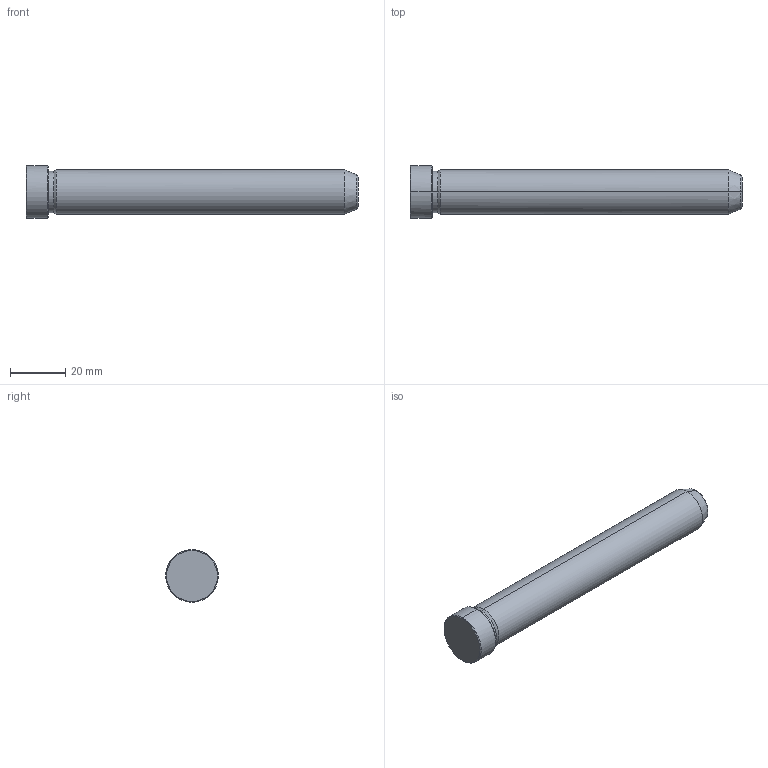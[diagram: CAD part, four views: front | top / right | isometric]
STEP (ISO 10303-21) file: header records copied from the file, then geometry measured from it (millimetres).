
FILE_DESCRIPTION(('CATIA V5 STEP Exchange'),'2;1');
FILE_NAME('C:\Users\Utente\Desktop\IO LAVORO\3D X SITO CF\X SITO\PLASTICA\549\549-16X120.stp','2021-12-11T09:33:06+00:00',('none'),('none'),'CATIA Version 5 Release 20 GA (IN-10)','CATIA V5 STEP AP203','none');
FILE_SCHEMA(('CONFIG_CONTROL_DESIGN'));
Length unit declared in the file: millimetre
Products named in the file (1): 549-16X120
Bounding box: 120 x 19 x 19 mm (x, y, z)
Volume: 24487 mm3; surface area: 6566.8 mm2
Topology: 1 solids, 1 shells, 19 faces, 56 edges, 40 vertices
Faces by surface type: cone 8, cylinder 6, plane 3, torus 2
Entity records: 736 total; most frequent: CARTESIAN_POINT 192, ORIENTED_EDGE 112, DIRECTION 86, EDGE_CURVE 56, AXIS2_PLACEMENT_3D 54, VERTEX_POINT 40, CIRCLE 34, EDGE_LOOP 20
